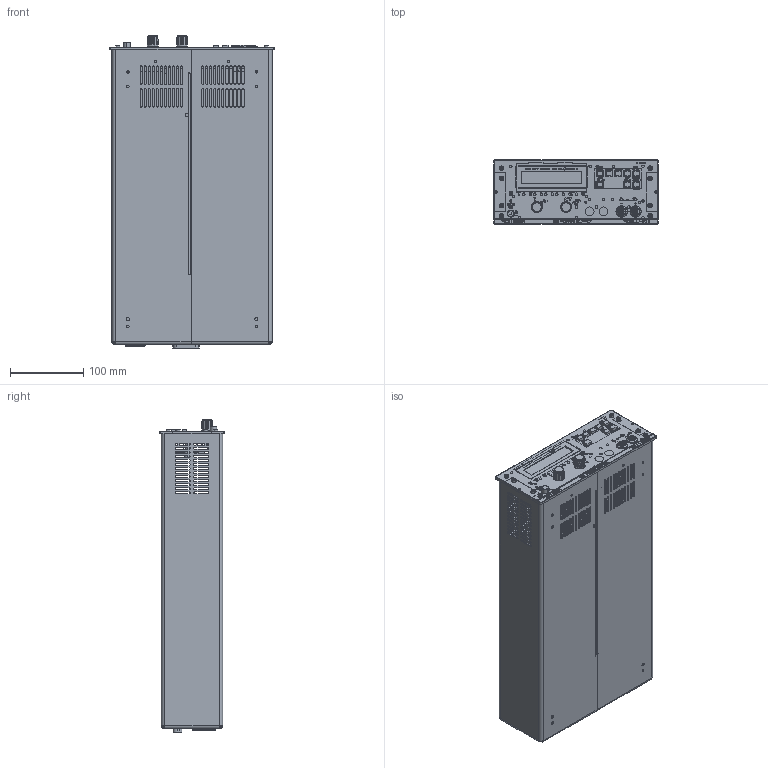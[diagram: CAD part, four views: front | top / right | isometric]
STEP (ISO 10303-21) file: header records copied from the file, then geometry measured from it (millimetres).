
FILE_DESCRIPTION (( 'STEP AP214' ), '1' );
FILE_NAME ('TOE 8951_3d.STEP', '2017-04-05T12:39:11', ( 'KL_' ), ( '' ), 'SwSTEP 2.0', 'SolidWorks 2015', '' );
FILE_SCHEMA (( 'AUTOMOTIVE_DESIGN' ));
Length unit declared in the file: millimetre
Products named in the file (1): TOE 8951_3d
Bounding box: 224 x 88 x 425.97 mm (x, y, z)
Surface area: 686542.4 mm2 (no closed solid volume)
Topology: 0 solids, 349 shells, 1841 faces, 8362 edges, 6770 vertices
Faces by surface type: plane 1074, cylinder 580, cone 106, torus 41, bspline 38, sphere 2
Entity records: 115963 total; most frequent: CARTESIAN_POINT 28907, DIRECTION 13282, ORIENTED_EDGE 11578, EDGE_CURVE 8342, VERTEX_POINT 6768, VECTOR 5282, LINE 5282, AXIS2_PLACEMENT_3D 4000
